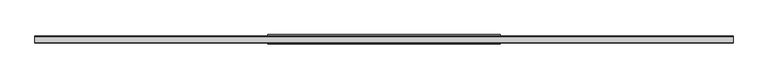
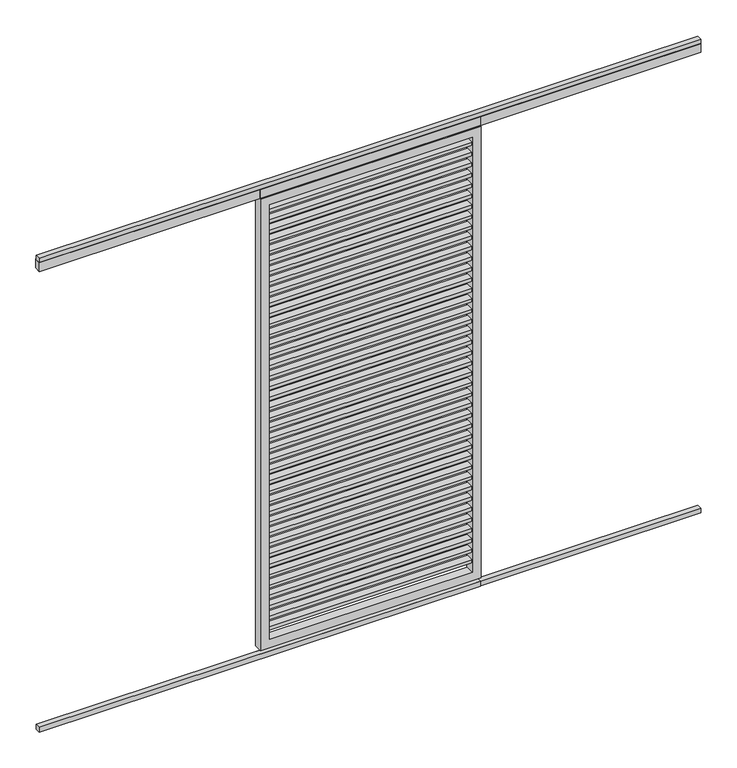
"""IFC4 building model written with IfcOpenShell, lengths in millimetres: proxy geometry, Renson_Algarve_Loggia_Plano : Renson_Algarve_Loggia_Plano."""

from ifc_helpers import new_model, si_unit, frame, origin, origin_with_axes, place, context, project, spatial, polyline, outline, extrude, source, transform, mapped, element, save


def generic_models_744005c1(model_context):
    return source(origin(), model_context, "Body", "SweptSolid", [
        extrude(outline(polyline([(460.0, 16.5), (460.0, -16.5), (-460.0, -16.5), (-460.0, 16.5), (460.0, 16.5)])), frame((0.0, 0.0, 2127.0), z_axis=(0.0, 0.0, 1.0), x_axis=(1.0, 0.0, 0.0)), (0.0, 0.0, 1.0), 16.0),
        extrude(outline(polyline([(460.0, 16.5), (460.0, -16.5), (-460.0, -16.5), (-460.0, 16.5), (460.0, 16.5)])), frame((0.0, 0.0, 2077.0), z_axis=(0.0, 0.0, 1.0), x_axis=(1.0, 0.0, 0.0)), (0.0, 0.0, 1.0), 16.0),
        extrude(outline(polyline([(460.0, 16.5), (460.0, -16.5), (-460.0, -16.5), (-460.0, 16.5), (460.0, 16.5)])), frame((0.0, 0.0, 2027.0), z_axis=(0.0, 0.0, 1.0), x_axis=(1.0, 0.0, 0.0)), (0.0, 0.0, 1.0), 16.0),
        extrude(outline(polyline([(460.0, 16.5), (460.0, -16.5), (-460.0, -16.5), (-460.0, 16.5), (460.0, 16.5)])), frame((0.0, 0.0, 1977.0), z_axis=(0.0, 0.0, 1.0), x_axis=(1.0, 0.0, 0.0)), (0.0, 0.0, 1.0), 16.0),
        extrude(outline(polyline([(460.0, 16.5), (460.0, -16.5), (-460.0, -16.5), (-460.0, 16.5), (460.0, 16.5)])), frame((0.0, 0.0, 1927.0), z_axis=(0.0, 0.0, 1.0), x_axis=(1.0, 0.0, 0.0)), (0.0, 0.0, 1.0), 16.0),
        extrude(outline(polyline([(460.0, 16.5), (460.0, -16.5), (-460.0, -16.5), (-460.0, 16.5), (460.0, 16.5)])), frame((0.0, 0.0, 1877.0), z_axis=(0.0, 0.0, 1.0), x_axis=(1.0, 0.0, 0.0)), (0.0, 0.0, 1.0), 16.0),
        extrude(outline(polyline([(460.0, 16.5), (460.0, -16.5), (-460.0, -16.5), (-460.0, 16.5), (460.0, 16.5)])), frame((0.0, 0.0, 1827.0), z_axis=(0.0, 0.0, 1.0), x_axis=(1.0, 0.0, 0.0)), (0.0, 0.0, 1.0), 16.0),
        extrude(outline(polyline([(460.0, 16.5), (460.0, -16.5), (-460.0, -16.5), (-460.0, 16.5), (460.0, 16.5)])), frame((0.0, 0.0, 1777.0), z_axis=(0.0, 0.0, 1.0), x_axis=(1.0, 0.0, 0.0)), (0.0, 0.0, 1.0), 16.0),
        extrude(outline(polyline([(460.0, 16.5), (460.0, -16.5), (-460.0, -16.5), (-460.0, 16.5), (460.0, 16.5)])), frame((0.0, 0.0, 1727.0), z_axis=(0.0, 0.0, 1.0), x_axis=(1.0, 0.0, 0.0)), (0.0, 0.0, 1.0), 16.0),
        extrude(outline(polyline([(460.0, 16.5), (460.0, -16.5), (-460.0, -16.5), (-460.0, 16.5), (460.0, 16.5)])), frame((0.0, 0.0, 1677.0), z_axis=(0.0, 0.0, 1.0), x_axis=(1.0, 0.0, 0.0)), (0.0, 0.0, 1.0), 16.0),
        extrude(outline(polyline([(460.0, 16.5), (460.0, -16.5), (-460.0, -16.5), (-460.0, 16.5), (460.0, 16.5)])), frame((0.0, 0.0, 1627.0), z_axis=(0.0, 0.0, 1.0), x_axis=(1.0, 0.0, 0.0)), (0.0, 0.0, 1.0), 16.0),
        extrude(outline(polyline([(460.0, 16.5), (460.0, -16.5), (-460.0, -16.5), (-460.0, 16.5), (460.0, 16.5)])), frame((0.0, 0.0, 1577.0), z_axis=(0.0, 0.0, 1.0), x_axis=(1.0, 0.0, 0.0)), (0.0, 0.0, 1.0), 16.0),
        extrude(outline(polyline([(460.0, 16.5), (460.0, -16.5), (-460.0, -16.5), (-460.0, 16.5), (460.0, 16.5)])), frame((0.0, 0.0, 1527.0), z_axis=(0.0, 0.0, 1.0), x_axis=(1.0, 0.0, 0.0)), (0.0, 0.0, 1.0), 16.0),
        extrude(outline(polyline([(460.0, 16.5), (460.0, -16.5), (-460.0, -16.5), (-460.0, 16.5), (460.0, 16.5)])), frame((0.0, 0.0, 1477.0), z_axis=(0.0, 0.0, 1.0), x_axis=(1.0, 0.0, 0.0)), (0.0, 0.0, 1.0), 16.0),
        extrude(outline(polyline([(460.0, 16.5), (460.0, -16.5), (-460.0, -16.5), (-460.0, 16.5), (460.0, 16.5)])), frame((0.0, 0.0, 1427.0), z_axis=(0.0, 0.0, 1.0), x_axis=(1.0, 0.0, 0.0)), (0.0, 0.0, 1.0), 16.0),
        extrude(outline(polyline([(460.0, 16.5), (460.0, -16.5), (-460.0, -16.5), (-460.0, 16.5), (460.0, 16.5)])), frame((0.0, 0.0, 1377.0), z_axis=(0.0, 0.0, 1.0), x_axis=(1.0, 0.0, 0.0)), (0.0, 0.0, 1.0), 16.0),
        extrude(outline(polyline([(460.0, 16.5), (460.0, -16.5), (-460.0, -16.5), (-460.0, 16.5), (460.0, 16.5)])), frame((0.0, 0.0, 1327.0), z_axis=(0.0, 0.0, 1.0), x_axis=(1.0, 0.0, 0.0)), (0.0, 0.0, 1.0), 16.0),
        extrude(outline(polyline([(460.0, 16.5), (460.0, -16.5), (-460.0, -16.5), (-460.0, 16.5), (460.0, 16.5)])), frame((0.0, 0.0, 1277.0), z_axis=(0.0, 0.0, 1.0), x_axis=(1.0, 0.0, 0.0)), (0.0, 0.0, 1.0), 16.0),
        extrude(outline(polyline([(460.0, 16.5), (460.0, -16.5), (-460.0, -16.5), (-460.0, 16.5), (460.0, 16.5)])), frame((0.0, 0.0, 1227.0), z_axis=(0.0, 0.0, 1.0), x_axis=(1.0, 0.0, 0.0)), (0.0, 0.0, 1.0), 16.0),
        extrude(outline(polyline([(460.0, 16.5), (460.0, -16.5), (-460.0, -16.5), (-460.0, 16.5), (460.0, 16.5)])), frame((0.0, 0.0, 1177.0), z_axis=(0.0, 0.0, 1.0), x_axis=(1.0, 0.0, 0.0)), (0.0, 0.0, 1.0), 16.0),
        extrude(outline(polyline([(460.0, 16.5), (460.0, -16.5), (-460.0, -16.5), (-460.0, 16.5), (460.0, 16.5)])), frame((0.0, 0.0, 1127.0), z_axis=(0.0, 0.0, 1.0), x_axis=(1.0, 0.0, 0.0)), (0.0, 0.0, 1.0), 16.0),
        extrude(outline(polyline([(460.0, 16.5), (460.0, -16.5), (-460.0, -16.5), (-460.0, 16.5), (460.0, 16.5)])), frame((0.0, 0.0, 1077.0), z_axis=(0.0, 0.0, 1.0), x_axis=(1.0, 0.0, 0.0)), (0.0, 0.0, 1.0), 16.0),
        extrude(outline(polyline([(460.0, 16.5), (460.0, -16.5), (-460.0, -16.5), (-460.0, 16.5), (460.0, 16.5)])), frame((0.0, 0.0, 1027.0), z_axis=(0.0, 0.0, 1.0), x_axis=(1.0, 0.0, 0.0)), (0.0, 0.0, 1.0), 16.0),
        extrude(outline(polyline([(460.0, 16.5), (460.0, -16.5), (-460.0, -16.5), (-460.0, 16.5), (460.0, 16.5)])), frame((0.0, 0.0, 977.0), z_axis=(0.0, 0.0, 1.0), x_axis=(1.0, 0.0, 0.0)), (0.0, 0.0, 1.0), 16.0),
        extrude(outline(polyline([(460.0, 16.5), (460.0, -16.5), (-460.0, -16.5), (-460.0, 16.5), (460.0, 16.5)])), frame((0.0, 0.0, 927.0), z_axis=(0.0, 0.0, 1.0), x_axis=(1.0, 0.0, 0.0)), (0.0, 0.0, 1.0), 16.0),
        extrude(outline(polyline([(460.0, 16.5), (460.0, -16.5), (-460.0, -16.5), (-460.0, 16.5), (460.0, 16.5)])), frame((0.0, 0.0, 877.0), z_axis=(0.0, 0.0, 1.0), x_axis=(1.0, 0.0, 0.0)), (0.0, 0.0, 1.0), 16.0),
        extrude(outline(polyline([(460.0, 16.5), (460.0, -16.5), (-460.0, -16.5), (-460.0, 16.5), (460.0, 16.5)])), frame((0.0, 0.0, 827.0), z_axis=(0.0, 0.0, 1.0), x_axis=(1.0, 0.0, 0.0)), (0.0, 0.0, 1.0), 16.0),
        extrude(outline(polyline([(460.0, 16.5), (460.0, -16.5), (-460.0, -16.5), (-460.0, 16.5), (460.0, 16.5)])), frame((0.0, 0.0, 777.0), z_axis=(0.0, 0.0, 1.0), x_axis=(1.0, 0.0, 0.0)), (0.0, 0.0, 1.0), 16.0),
        extrude(outline(polyline([(460.0, 16.5), (460.0, -16.5), (-460.0, -16.5), (-460.0, 16.5), (460.0, 16.5)])), frame((0.0, 0.0, 727.0), z_axis=(0.0, 0.0, 1.0), x_axis=(1.0, 0.0, 0.0)), (0.0, 0.0, 1.0), 16.0),
        extrude(outline(polyline([(460.0, 16.5), (460.0, -16.5), (-460.0, -16.5), (-460.0, 16.5), (460.0, 16.5)])), frame((0.0, 0.0, 677.0), z_axis=(0.0, 0.0, 1.0), x_axis=(1.0, 0.0, 0.0)), (0.0, 0.0, 1.0), 16.0),
        extrude(outline(polyline([(460.0, 16.5), (460.0, -16.5), (-460.0, -16.5), (-460.0, 16.5), (460.0, 16.5)])), frame((0.0, 0.0, 627.0), z_axis=(0.0, 0.0, 1.0), x_axis=(1.0, 0.0, 0.0)), (0.0, 0.0, 1.0), 16.0),
        extrude(outline(polyline([(460.0, 16.5), (460.0, -16.5), (-460.0, -16.5), (-460.0, 16.5), (460.0, 16.5)])), frame((0.0, 0.0, 577.0), z_axis=(0.0, 0.0, 1.0), x_axis=(1.0, 0.0, 0.0)), (0.0, 0.0, 1.0), 16.0),
        extrude(outline(polyline([(460.0, 16.5), (460.0, -16.5), (-460.0, -16.5), (-460.0, 16.5), (460.0, 16.5)])), frame((0.0, 0.0, 527.0), z_axis=(0.0, 0.0, 1.0), x_axis=(1.0, 0.0, 0.0)), (0.0, 0.0, 1.0), 16.0),
        extrude(outline(polyline([(460.0, 16.5), (460.0, -16.5), (-460.0, -16.5), (-460.0, 16.5), (460.0, 16.5)])), frame((0.0, 0.0, 477.0), z_axis=(0.0, 0.0, 1.0), x_axis=(1.0, 0.0, 0.0)), (0.0, 0.0, 1.0), 16.0),
        extrude(outline(polyline([(460.0, 16.5), (460.0, -16.5), (-460.0, -16.5), (-460.0, 16.5), (460.0, 16.5)])), frame((0.0, 0.0, 427.0), z_axis=(0.0, 0.0, 1.0), x_axis=(1.0, 0.0, 0.0)), (0.0, 0.0, 1.0), 16.0),
        extrude(outline(polyline([(460.0, 16.5), (460.0, -16.5), (-460.0, -16.5), (-460.0, 16.5), (460.0, 16.5)])), frame((0.0, 0.0, 377.0), z_axis=(0.0, 0.0, 1.0), x_axis=(1.0, 0.0, 0.0)), (0.0, 0.0, 1.0), 16.0),
        extrude(outline(polyline([(460.0, 16.5), (460.0, -16.5), (-460.0, -16.5), (-460.0, 16.5), (460.0, 16.5)])), frame((0.0, 0.0, 327.0), z_axis=(0.0, 0.0, 1.0), x_axis=(1.0, 0.0, 0.0)), (0.0, 0.0, 1.0), 16.0),
        extrude(outline(polyline([(460.0, 16.5), (460.0, -16.5), (-460.0, -16.5), (-460.0, 16.5), (460.0, 16.5)])), frame((0.0, 0.0, 277.0), z_axis=(0.0, 0.0, 1.0), x_axis=(1.0, 0.0, 0.0)), (0.0, 0.0, 1.0), 16.0),
        extrude(outline(polyline([(460.0, 16.5), (460.0, -16.5), (-460.0, -16.5), (-460.0, 16.5), (460.0, 16.5)])), frame((0.0, 0.0, 227.0), z_axis=(0.0, 0.0, 1.0), x_axis=(1.0, 0.0, 0.0)), (0.0, 0.0, 1.0), 16.0),
        extrude(outline(polyline([(460.0, 16.5), (460.0, -16.5), (-460.0, -16.5), (-460.0, 16.5), (460.0, 16.5)])), frame((0.0, 0.0, 177.0), z_axis=(0.0, 0.0, 1.0), x_axis=(1.0, 0.0, 0.0)), (0.0, 0.0, 1.0), 16.0),
        extrude(outline(polyline([(460.0, 16.5), (460.0, -16.5), (-460.0, -16.5), (-460.0, 16.5), (460.0, 16.5)])), frame((0.0, 0.0, 127.0), z_axis=(0.0, 0.0, 1.0), x_axis=(1.0, 0.0, 0.0)), (0.0, 0.0, 1.0), 16.0),
        extrude(outline(polyline([(1500.0, -13.0), (-1500.0, -13.0), (-1500.0, 10.0), (1500.0, 10.0), (1500.0, -13.0)])), frame((0.0, 0.0, 2250.0), z_axis=(0.0, 0.0, 1.0), x_axis=(1.0, 0.0, 0.0)), (0.0, 0.0, 1.0), 20.0),
        extrude(outline(polyline([(500.0, 15.0), (500.0, -15.0), (-1500.0, -15.0), (-1500.0, 15.0), (500.0, 15.0)])), frame((0.0, 0.0, 2207.7138321), z_axis=(0.0, 0.0, 1.0), x_axis=(1.0, 0.0, 0.0)), (0.0, 0.0, 1.0), 42.2861679),
        extrude(outline(polyline([(1500.0, 15.0), (1500.0, -15.0), (-500.0, -15.0), (-500.0, 15.0), (1500.0, 15.0)])), frame((0.0, 0.0, 2207.7138321), z_axis=(0.0, 0.0, 1.0), x_axis=(1.0, 0.0, 0.0)), (0.0, 0.0, 1.0), 42.2861679),
        extrude(outline(polyline([(500.0, -13.0), (-1500.0, -13.0), (-1500.0, 10.0), (500.0, 10.0), (500.0, -13.0)])), origin_with_axes(), (0.0, 0.0, 1.0), 23.0),
        extrude(outline(polyline([(1500.0, 10.0), (1500.0, -13.0), (-500.0, -13.0), (-500.0, 10.0), (1500.0, 10.0)])), origin_with_axes(), (0.0, 0.0, 1.0), 23.0),
        extrude(outline(polyline([(2207.7138321, -500.0), (45.0, -500.0), (45.0, 500.0), (2207.7138321, 500.0), (2207.7138321, -500.0)]), holes=[polyline([(2167.7138321, 460.0), (85.0, 460.0), (85.0, -460.0), (2167.7138321, -460.0), (2167.7138321, 460.0)])]), frame((0.0, -20.0, 0.0), z_axis=(0.0, 1.0, 0.0), x_axis=(0.0, 0.0, 1.0)), (0.0, 0.0, 1.0), 40.0),
    ])


if __name__ == "__main__":
    model = new_model("IFC4")
    model_context = context("Model", 3, world=origin())
    ifc_project = project(units=[si_unit("LENGTHUNIT", "METRE", prefix="MILLI")], contexts=[model_context])
    site = spatial("IfcSite", under=ifc_project)
    building = spatial("IfcBuilding", under=site)
    placement = place(None, origin())
    generic_models_shape = generic_models_744005c1(model_context)
    element("IfcBuildingElementProxy", 1, Name="Renson_Algarve_Loggia_Plano : Renson_Algarve_Loggia_Plano", ObjectType="Renson_Algarve_Loggia_Plano : Renson_Algarve_Loggia_Plano", at=placement, inside=building, context=model_context, shape_type="MappedRepresentation", body=[
        mapped(generic_models_shape, transform((0.0, 0.0, 0.0), x_axis=(1.0, 0.0, 0.0), y_axis=(0.0, 1.0, 0.0), z_axis=(0.0, 0.0, 1.0))),
    ])
    save(model, "model.ifc")
